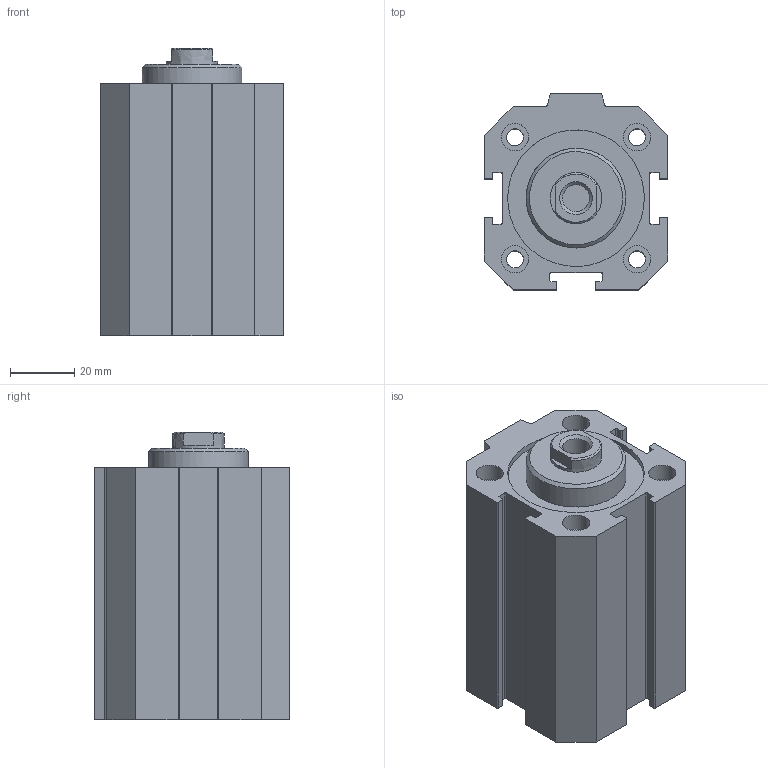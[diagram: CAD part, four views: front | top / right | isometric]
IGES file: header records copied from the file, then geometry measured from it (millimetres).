
Global section: file name: 1511_40_0040; native system: Autodesk Inventor 2014; preprocessor: unknown; author: A. Manieri; date: 20160824.120106; units: millimetre
Bounding box: 57 x 61 x 89.5 mm (x, y, z)
Volume: 179594.8 mm3; surface area: 51908.6 mm2
Topology: 2 solids, 2 shells, 117 faces, 300 edges, 205 vertices
Faces by surface type: bspline 117
